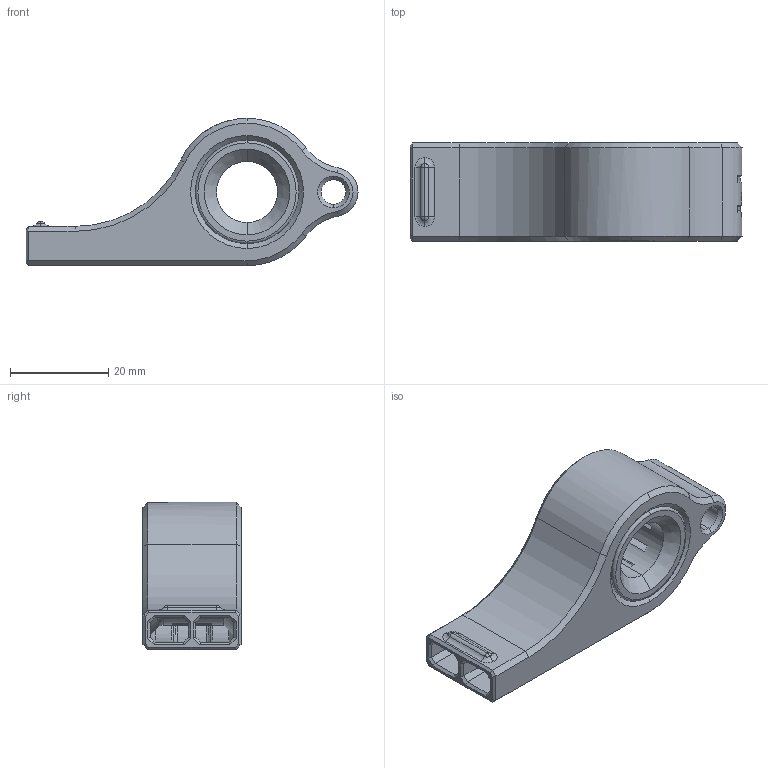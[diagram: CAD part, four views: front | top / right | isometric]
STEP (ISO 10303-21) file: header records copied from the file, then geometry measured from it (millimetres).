
FILE_DESCRIPTION (( 'STEP AP203' ), '1' );
FILE_NAME ('TurbineWhistle_A8-I8_T4.STEP', '2026-04-04T10:32:07', ( '' ), ( '' ), 'SwSTEP 2.0', 'SolidWorks 2017', '' );
FILE_SCHEMA (( 'CONFIG_CONTROL_DESIGN' ));
Length unit declared in the file: millimetre
Products named in the file (1): TurbineWhistle_A8-I8_T4
Bounding box: 67.6 x 20 x 30 mm (x, y, z)
Volume: 9932.5 mm3; surface area: 12911.7 mm2
Topology: 2 solids, 2 shells, 282 faces, 702 edges, 429 vertices
Faces by surface type: plane 157, cone 56, cylinder 31, torus 22, bspline 12, sphere 4
Entity records: 8936 total; most frequent: CARTESIAN_POINT 2055, DIRECTION 1427, ORIENTED_EDGE 1404, EDGE_CURVE 702, AXIS2_PLACEMENT_3D 507, VERTEX_POINT 429, LINE 413, VECTOR 413
